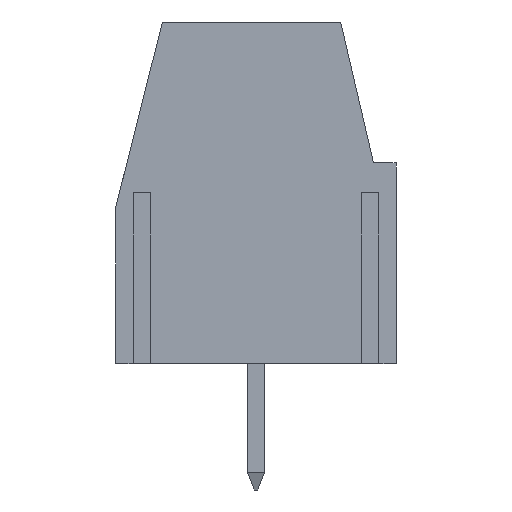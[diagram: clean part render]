
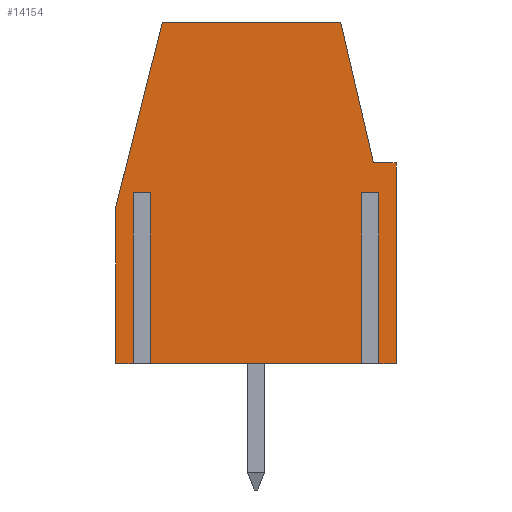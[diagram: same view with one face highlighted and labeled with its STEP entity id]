
A CAD part, left-side view. The second image highlights one B-rep face of the part: STEP entity #14154.
In plain terms, the highlighted planar face has unit normal (-1, 0, 0).
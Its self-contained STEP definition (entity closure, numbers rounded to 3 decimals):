
#544 = CARTESIAN_POINT ( 'NONE',  ( -7.54, 4.1, 0. ) ) ;
#587 = LINE ( 'NONE', #12691, #10660 ) ;
#703 = EDGE_CURVE ( 'NONE', #21959, #7470, #1697, .T. ) ;
#747 = CARTESIAN_POINT ( 'NONE',  ( -7.54, -3.1, 0. ) ) ;
#841 = CARTESIAN_POINT ( 'NONE',  ( -7.54, 4.1, 0. ) ) ;
#916 = VECTOR ( 'NONE', #7278, 1000. ) ;
#971 = VERTEX_POINT ( 'NONE', #4304 ) ;
#973 = EDGE_CURVE ( 'NONE', #13039, #16214, #994, .T. ) ;
#994 = LINE ( 'NONE', #747, #12188 ) ;
#1055 = ORIENTED_EDGE ( 'NONE', *, *, #2701, .F. ) ;
#1061 = VERTEX_POINT ( 'NONE', #10671 ) ;
#1315 = CARTESIAN_POINT ( 'NONE',  ( -7.54, -3.438, 5.873 ) ) ;
#1358 = CARTESIAN_POINT ( 'NONE',  ( -7.54, 0., 0. ) ) ;
#1694 = ORIENTED_EDGE ( 'NONE', *, *, #6514, .F. ) ;
#1697 = LINE ( 'NONE', #1358, #15480 ) ;
#1825 = EDGE_CURVE ( 'NONE', #14273, #971, #587, .T. ) ;
#1848 = CARTESIAN_POINT ( 'NONE',  ( -7.54, 4.1, 4.594 ) ) ;
#2701 = EDGE_CURVE ( 'NONE', #21978, #21959, #2999, .T. ) ;
#2750 = DIRECTION ( 'NONE',  ( 0., -1., 0. ) ) ;
#2801 = ORIENTED_EDGE ( 'NONE', *, *, #14031, .F. ) ;
#2990 = VECTOR ( 'NONE', #5431, 1000. ) ;
#2992 = CARTESIAN_POINT ( 'NONE',  ( -7.54, 4.1, 4.594 ) ) ;
#2999 = LINE ( 'NONE', #9961, #14751 ) ;
#3128 = CARTESIAN_POINT ( 'NONE',  ( -7.54, 2.742, 10. ) ) ;
#3262 = ORIENTED_EDGE ( 'NONE', *, *, #6129, .F. ) ;
#3468 = AXIS2_PLACEMENT_3D ( 'NONE', #19375, #3750, #10700 ) ;
#3492 = EDGE_CURVE ( 'NONE', #10625, #11432, #13839, .T. ) ;
#3709 = CARTESIAN_POINT ( 'NONE',  ( -7.54, 0., 5. ) ) ;
#3750 = DIRECTION ( 'NONE',  ( -1., 0., 0. ) ) ;
#3799 = ORIENTED_EDGE ( 'NONE', *, *, #703, .F. ) ;
#4204 = LINE ( 'NONE', #544, #12055 ) ;
#4304 = CARTESIAN_POINT ( 'NONE',  ( -7.54, -4.1, 0. ) ) ;
#4705 = VERTEX_POINT ( 'NONE', #16861 ) ;
#4885 = ORIENTED_EDGE ( 'NONE', *, *, #17512, .F. ) ;
#4995 = CARTESIAN_POINT ( 'NONE',  ( -7.54, -3.6, 0. ) ) ;
#5431 = DIRECTION ( 'NONE',  ( 0., 1., 0. ) ) ;
#5693 = CARTESIAN_POINT ( 'NONE',  ( -7.54, 3.6, 5. ) ) ;
#5768 = EDGE_CURVE ( 'NONE', #971, #1061, #22020, .T. ) ;
#5809 = CARTESIAN_POINT ( 'NONE',  ( -7.54, 3.1, 5. ) ) ;
#6129 = EDGE_CURVE ( 'NONE', #20585, #21978, #13488, .T. ) ;
#6332 = DIRECTION ( 'NONE',  ( 0., 0., -1. ) ) ;
#6343 = CARTESIAN_POINT ( 'NONE',  ( -7.54, 0., 5. ) ) ;
#6514 = EDGE_CURVE ( 'NONE', #1061, #16437, #20638, .T. ) ;
#7166 = VECTOR ( 'NONE', #22171, 1000. ) ;
#7278 = DIRECTION ( 'NONE',  ( 0., 1., 0. ) ) ;
#7447 = CARTESIAN_POINT ( 'NONE',  ( -7.54, 2.742, 10. ) ) ;
#7470 = VERTEX_POINT ( 'NONE', #841 ) ;
#8161 = DIRECTION ( 'NONE',  ( 0., 1., 0. ) ) ;
#8267 = ORIENTED_EDGE ( 'NONE', *, *, #3492, .F. ) ;
#8329 = DIRECTION ( 'NONE',  ( 0., 1., 0. ) ) ;
#8346 = EDGE_CURVE ( 'NONE', #16437, #13039, #21296, .T. ) ;
#9696 = LINE ( 'NONE', #11064, #20979 ) ;
#9961 = CARTESIAN_POINT ( 'NONE',  ( -7.54, 3.6, 0. ) ) ;
#9984 = ORIENTED_EDGE ( 'NONE', *, *, #14619, .F. ) ;
#10004 = DIRECTION ( 'NONE',  ( 0., 0., 1. ) ) ;
#10530 = EDGE_CURVE ( 'NONE', #13221, #10625, #18744, .T. ) ;
#10625 = VERTEX_POINT ( 'NONE', #10751 ) ;
#10660 = VECTOR ( 'NONE', #21726, 1000. ) ;
#10671 = CARTESIAN_POINT ( 'NONE',  ( -7.54, -3.6, 0. ) ) ;
#10700 = DIRECTION ( 'NONE',  ( 0., 0., 1. ) ) ;
#10751 = CARTESIAN_POINT ( 'NONE',  ( -7.54, -2.481, 10. ) ) ;
#11064 = CARTESIAN_POINT ( 'NONE',  ( -7.54, 0., 0. ) ) ;
#11205 = LINE ( 'NONE', #15052, #20279 ) ;
#11258 = DIRECTION ( 'NONE',  ( 0., 0., -1. ) ) ;
#11414 = CARTESIAN_POINT ( 'NONE',  ( -7.54, -4.1, 5.873 ) ) ;
#11432 = VERTEX_POINT ( 'NONE', #19081 ) ;
#11832 = VECTOR ( 'NONE', #8161, 1000. ) ;
#12055 = VECTOR ( 'NONE', #21888, 1000. ) ;
#12065 = VECTOR ( 'NONE', #18849, 1000. ) ;
#12088 = FACE_OUTER_BOUND ( 'NONE', #14660, .T. ) ;
#12115 = LINE ( 'NONE', #2992, #7166 ) ;
#12188 = VECTOR ( 'NONE', #11258, 1000. ) ;
#12300 = CARTESIAN_POINT ( 'NONE',  ( -7.54, 0., 0. ) ) ;
#12424 = VECTOR ( 'NONE', #10004, 1000. ) ;
#12691 = CARTESIAN_POINT ( 'NONE',  ( -7.54, -4.1, 0. ) ) ;
#13039 = VERTEX_POINT ( 'NONE', #17699 ) ;
#13076 = CARTESIAN_POINT ( 'NONE',  ( -7.54, -4.1, 5.873 ) ) ;
#13221 = VERTEX_POINT ( 'NONE', #7447 ) ;
#13260 = DIRECTION ( 'NONE',  ( 0., 0., 1. ) ) ;
#13488 = LINE ( 'NONE', #6343, #11832 ) ;
#13839 = LINE ( 'NONE', #1315, #15938 ) ;
#13885 = PLANE ( 'NONE',  #3468 ) ;
#14031 = EDGE_CURVE ( 'NONE', #16214, #4705, #9696, .T. ) ;
#14154 = ADVANCED_FACE ( 'NONE', ( #12088 ), #13885, .T. ) ;
#14273 = VERTEX_POINT ( 'NONE', #13076 ) ;
#14575 = EDGE_CURVE ( 'NONE', #4705, #20585, #11205, .T. ) ;
#14619 = EDGE_CURVE ( 'NONE', #18711, #13221, #12115, .T. ) ;
#14660 = EDGE_LOOP ( 'NONE', ( #3262, #14818, #2801, #21563, #20336, #1694, #20823, #15532, #16249, #8267, #19515, #9984, #4885, #3799, #1055 ) ) ;
#14695 = LINE ( 'NONE', #11414, #18429 ) ;
#14751 = VECTOR ( 'NONE', #6332, 1000. ) ;
#14818 = ORIENTED_EDGE ( 'NONE', *, *, #14575, .F. ) ;
#14861 = EDGE_CURVE ( 'NONE', #11432, #14273, #14695, .T. ) ;
#15052 = CARTESIAN_POINT ( 'NONE',  ( -7.54, 3.1, 0. ) ) ;
#15480 = VECTOR ( 'NONE', #8329, 1000. ) ;
#15532 = ORIENTED_EDGE ( 'NONE', *, *, #1825, .F. ) ;
#15938 = VECTOR ( 'NONE', #22452, 1000. ) ;
#16214 = VERTEX_POINT ( 'NONE', #18870 ) ;
#16249 = ORIENTED_EDGE ( 'NONE', *, *, #14861, .F. ) ;
#16437 = VERTEX_POINT ( 'NONE', #19631 ) ;
#16861 = CARTESIAN_POINT ( 'NONE',  ( -7.54, 3.1, 0. ) ) ;
#17512 = EDGE_CURVE ( 'NONE', #7470, #18711, #4204, .T. ) ;
#17699 = CARTESIAN_POINT ( 'NONE',  ( -7.54, -3.1, 5. ) ) ;
#18429 = VECTOR ( 'NONE', #2750, 1000. ) ;
#18481 = CARTESIAN_POINT ( 'NONE',  ( -7.54, 3.6, 0. ) ) ;
#18711 = VERTEX_POINT ( 'NONE', #1848 ) ;
#18744 = LINE ( 'NONE', #3128, #12065 ) ;
#18849 = DIRECTION ( 'NONE',  ( 0., -1., 0. ) ) ;
#18870 = CARTESIAN_POINT ( 'NONE',  ( -7.54, -3.1, 0. ) ) ;
#19081 = CARTESIAN_POINT ( 'NONE',  ( -7.54, -3.438, 5.873 ) ) ;
#19375 = CARTESIAN_POINT ( 'NONE',  ( -7.54, 0., 0. ) ) ;
#19515 = ORIENTED_EDGE ( 'NONE', *, *, #10530, .F. ) ;
#19631 = CARTESIAN_POINT ( 'NONE',  ( -7.54, -3.6, 5. ) ) ;
#20279 = VECTOR ( 'NONE', #13260, 1000. ) ;
#20336 = ORIENTED_EDGE ( 'NONE', *, *, #8346, .F. ) ;
#20585 = VERTEX_POINT ( 'NONE', #5809 ) ;
#20638 = LINE ( 'NONE', #4995, #12424 ) ;
#20823 = ORIENTED_EDGE ( 'NONE', *, *, #5768, .F. ) ;
#20979 = VECTOR ( 'NONE', #21586, 1000. ) ;
#21296 = LINE ( 'NONE', #3709, #2990 ) ;
#21563 = ORIENTED_EDGE ( 'NONE', *, *, #973, .F. ) ;
#21586 = DIRECTION ( 'NONE',  ( 0., 1., 0. ) ) ;
#21726 = DIRECTION ( 'NONE',  ( 0., 0., -1. ) ) ;
#21888 = DIRECTION ( 'NONE',  ( 0., 0., 1. ) ) ;
#21959 = VERTEX_POINT ( 'NONE', #18481 ) ;
#21978 = VERTEX_POINT ( 'NONE', #5693 ) ;
#22020 = LINE ( 'NONE', #12300, #916 ) ;
#22171 = DIRECTION ( 'NONE',  ( 0., -0.244, 0.97 ) ) ;
#22452 = DIRECTION ( 'NONE',  ( 0., -0.226, -0.974 ) ) ;
